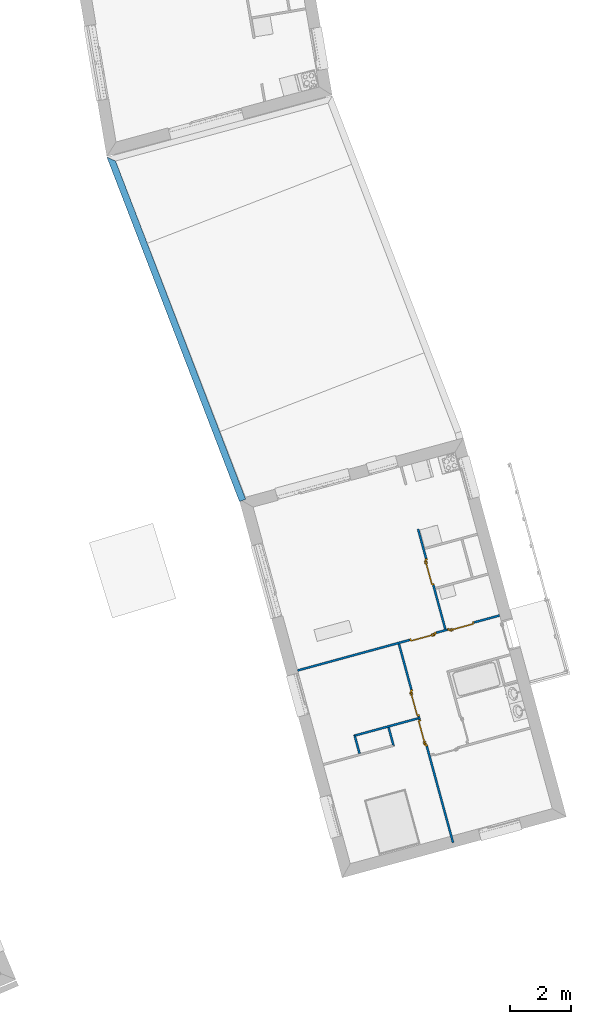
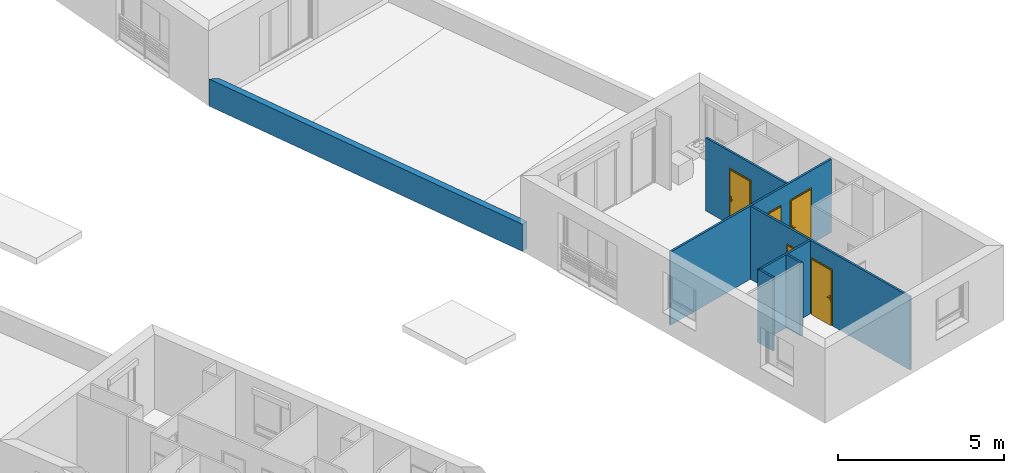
# One storey, part 63 of 121: 7 walls, 5 doors, 5 openings.
"""IFC2X3 building model written with IfcOpenShell, lengths in metres."""

from ifc_helpers import new_model, entity, si_unit, converted_unit, derived_unit, money_unit, direction, frame, origin_with_axes, origin_2d_with_axis, place, context, subcontext, project, spatial, polyline, rectangle, outline, extrude, faceted_brep, source, transform, mapped, material, layer, layer_set, layer_usage, type_object, element, fill, save


model = new_model("IFC2X3")

# Units and contexts
model_context = context("Model", 3, precision=1e-05, world=origin_with_axes(), true_north=direction((0.0, 1.0)))
body_context = subcontext(model_context, "Body", "Model", "MODEL_VIEW")
ifc_project = project(units=[si_unit("LENGTHUNIT", "METRE"), si_unit("AREAUNIT", "SQUARE_METRE"), si_unit("VOLUMEUNIT", "CUBIC_METRE"), converted_unit("PLANEANGLEUNIT", "DEGREE", entity("IfcPlaneAngleMeasure", 0.0174532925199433), si_unit("PLANEANGLEUNIT", "RADIAN"), dimensions=[0, 0, 0, 0, 0, 0, 0]), money_unit("CHF"), converted_unit("TIMEUNIT", "Year", entity("IfcTimeMeasure", 31557600.0), si_unit("TIMEUNIT", "SECOND"), dimensions=[0, 0, 1, 0, 0, 0, 0]), si_unit("MASSUNIT", "GRAM", prefix="KILO"), si_unit("THERMODYNAMICTEMPERATUREUNIT", "DEGREE_CELSIUS"), si_unit("LUMINOUSINTENSITYUNIT", "LUMEN"), si_unit("ENERGYUNIT", "JOULE", prefix="MEGA"), derived_unit("THERMALCONDUCTANCEUNIT", [(si_unit("POWERUNIT", "WATT"), 1), (si_unit("LENGTHUNIT", "METRE"), -1), (si_unit("THERMODYNAMICTEMPERATUREUNIT", "KELVIN"), -1)]), derived_unit("SPECIFICHEATCAPACITYUNIT", [(si_unit("ENERGYUNIT", "JOULE"), 1), (si_unit("MASSUNIT", "GRAM", prefix="KILO"), -1), (si_unit("THERMODYNAMICTEMPERATUREUNIT", "KELVIN"), -1)]), derived_unit("MASSDENSITYUNIT", [(si_unit("MASSUNIT", "GRAM", prefix="KILO"), 1), (si_unit("VOLUMEUNIT", "CUBIC_METRE"), -1)])], contexts=[model_context])

# Site, building, storey
site_placement = place(None, origin_with_axes())
site = spatial("IfcSite", under=ifc_project, at=site_placement, Name="Site", CompositionType="ELEMENT")
building_placement = place(site_placement, origin_with_axes())
building = spatial("IfcBuilding", under=site, at=building_placement, Name="Bâtiment", CompositionType="ELEMENT")
storey_placement = place(building_placement, frame((0.0, 0.0, 2.75), z_axis=(0.0, 0.0, 1.0), x_axis=(1.0, 0.0, 0.0)))
storey = spatial("IfcBuildingStorey", under=building, at=storey_placement, Name="Etage 1", CompositionType="ELEMENT", Elevation=2.75)

# Wall, openings, doors
ifc_material_1 = material(Name="Hachure solide 268963992")
ifc_layer_1 = layer(ifc_material_1, 0.07, ventilated="UNKNOWN")
ifc_layer_set_1 = layer_set([ifc_layer_1], Name="Cloison 70 0826278243")
ifc_layer_usage_1 = layer_usage(ifc_layer_set_1, "AXIS2", "POSITIVE", 0.0)
wall_type_1 = type_object("IfcWallType", Name="Cloison 70 0826278243 70", PredefinedType="NOTDEFINED")
wall_1_placement = place(storey_placement, frame((9593.433496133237, -1058.258213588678, 57.7), z_axis=(0.0, 0.0, 1.0), x_axis=(-0.262734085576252, 0.9648682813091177, 0.0)))
wall_1 = element("IfcWallStandardCase", 1, at=wall_1_placement, inside=storey, type_object=wall_type_1, material=ifc_layer_usage_1, Name="Mur-149", context=body_context, shape_type="SweptSolid", body=[
    extrude(outline(polyline([(0.0, 0.0), (6.793539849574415, 0.0), (6.793539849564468, 0.07000000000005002), (0.0, 0.06999999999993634), (0.0, 0.0)])), origin_with_axes(), (0.0, 0.0, 1.0), 2.7),
])
opening_1_placement = place(wall_1_placement, frame((3.753835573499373, 0.0, 0.0), z_axis=(0.0, 0.0, 1.0), x_axis=(1.0, 0.0, 0.0)))
opening_1 = element("IfcOpeningElement", 2, at=opening_1_placement, cuts=wall_1, Name="Por-301", context=body_context, shape_type="SweptSolid", body=[
    extrude(rectangle(XDim=0.9099999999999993, YDim=2.079999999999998, at=origin_2d_with_axis()), frame((0.0, -0.07000000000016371, 1.039999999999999), z_axis=(0.0, 1.0, 0.0), x_axis=(1.0, 0.0, 0.0)), (0.0, 0.0, 1.0), 0.14),
])
opening_2_placement = place(wall_1_placement, frame((4.775037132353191, 0.0, 0.0), z_axis=(0.0, 0.0, 1.0), x_axis=(1.0, 0.0, 0.0)))
opening_2 = element("IfcOpeningElement", 3, at=opening_2_placement, cuts=wall_1, Name="Por-302", context=body_context, shape_type="SweptSolid", body=[
    extrude(rectangle(XDim=0.9099999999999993, YDim=2.079999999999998, at=origin_2d_with_axis()), frame((0.0, -0.06999999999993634, 1.039999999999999), z_axis=(0.0, -1.0, 0.0), x_axis=(-1.0, 0.0, 0.0)), (0.0, 0.0, -1.0), 0.14),
])
door_style = type_object("IfcDoorStyle", Name="Porte_1v", ConstructionType="NOTDEFINED", OperationType="NOTDEFINED", ParameterTakesPrecedence=False, Sizeable=False)
shared_shape_1 = source(origin_with_axes(), body_context, "Body", "Brep", [
    faceted_brep([(0.455, 0.0, 0.0), (0.415, 0.0, 0.0), (0.415, 0.0, 2.04), (-0.415, 0.0, 2.04), (-0.415, 0.0, 0.0), (-0.455, 0.0, 0.0), (-0.455, 0.0, 2.08), (0.455, 0.0, 2.08), (0.455, -0.07, 0.0), (0.4, -0.07, 0.0), (0.4, -0.015, 0.0), (0.415, -0.015, 0.0), (0.415, -0.015, 2.04), (-0.415, -0.015, 2.04), (-0.415, -0.015, 0.0), (-0.4, -0.015, 0.0), (-0.4, -0.07, 0.0), (-0.455, -0.07, 0.0), (-0.455, -0.07, 2.08), (0.455, -0.07, 2.08), (-0.4, -0.07, 2.025), (0.4, -0.07, 2.025), (0.4, -0.015, 2.025), (-0.4, -0.015, 2.025)], [[[0, 1, 2, 3, 4, 5, 6, 7]], [[0, 8, 9, 10, 11, 1]], [[1, 11, 12, 2]], [[2, 12, 13, 3]], [[3, 13, 14, 4]], [[5, 4, 14, 15, 16, 17]], [[18, 6, 5, 17]], [[19, 7, 6, 18]], [[8, 0, 7, 19]], [[9, 8, 19, 18, 17, 16, 20, 21]], [[10, 9, 21, 22]], [[11, 10, 22, 23, 15, 14, 13, 12]], [[23, 20, 16, 15]], [[22, 21, 20, 23]]]),
    faceted_brep([(-0.35, -0.015, 0.9), (-0.39, -0.015, 0.9), (-0.39, -0.015, 1.1), (-0.35, -0.015, 1.1), (-0.35, -0.025, 0.9), (-0.39, -0.025, 0.9), (-0.39, -0.025, 1.1), (-0.35, -0.025, 1.1)], [[[0, 1, 2, 3]], [[1, 0, 4, 5]], [[2, 1, 5, 6]], [[3, 2, 6, 7]], [[0, 3, 7, 4]], [[5, 4, 7, 6]]]),
    faceted_brep([(-0.28, -0.025, 1.0), (-0.38, -0.025, 1.0), (-0.38, -0.025, 1.02), (-0.28, -0.025, 1.02), (-0.28, -0.045, 1.0), (-0.38, -0.045, 1.0), (-0.38, -0.045, 1.02), (-0.28, -0.045, 1.02)], [[[0, 1, 2, 3]], [[1, 0, 4, 5]], [[2, 1, 5, 6]], [[3, 2, 6, 7]], [[0, 3, 7, 4]], [[5, 4, 7, 6]]]),
    faceted_brep([(-0.35, 0.035, 0.9), (-0.39, 0.035, 0.9), (-0.39, 0.035, 1.1), (-0.35, 0.035, 1.1), (-0.35, 0.025, 0.9), (-0.39, 0.025, 0.9), (-0.39, 0.025, 1.1), (-0.35, 0.025, 1.1)], [[[0, 1, 2, 3]], [[1, 0, 4, 5]], [[2, 1, 5, 6]], [[3, 2, 6, 7]], [[0, 3, 7, 4]], [[5, 4, 7, 6]]]),
    faceted_brep([(-0.28, 0.05500000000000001, 1.0), (-0.38, 0.05500000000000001, 1.0), (-0.38, 0.05500000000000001, 1.02), (-0.28, 0.05500000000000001, 1.02), (-0.28, 0.035, 1.0), (-0.38, 0.035, 1.0), (-0.38, 0.035, 1.02), (-0.28, 0.035, 1.02)], [[[0, 1, 2, 3]], [[1, 0, 4, 5]], [[2, 1, 5, 6]], [[3, 2, 6, 7]], [[0, 3, 7, 4]], [[5, 4, 7, 6]]]),
    faceted_brep([(-0.415, 0.025, 0.0), (0.415, 0.025, 0.0), (0.415, -0.015, 0.0), (-0.415, -0.015, 0.0), (-0.415, 0.025, 2.04), (0.415, 0.025, 2.04), (0.415, -0.015, 2.04), (-0.415, -0.015, 2.04)], [[[0, 1, 2, 3]], [[0, 4, 5, 1]], [[1, 5, 6, 2]], [[3, 2, 6, 7]], [[4, 0, 3, 7]], [[5, 4, 7, 6]]]),
])
door_1_placement = place(opening_1_placement, frame((-0.4149999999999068, 0.0, 0.0), z_axis=(0.0, 0.0, 1.0), x_axis=(1.0, 0.0, 0.0)))
door_1 = element("IfcDoor", 4, at=door_1_placement, inside=storey, type_object=door_style, Name="Por-301", OverallHeight=2.04, OverallWidth=0.83, context=body_context, shape_type="MappedRepresentation", body=[
    mapped(shared_shape_1, transform((0.4149999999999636, 0.07000000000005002, 0.0))),
])
fill(opening_1, door_1)
shared_shape_2 = source(origin_with_axes(), body_context, "Body", "Brep", [
    faceted_brep([(-0.455, 0.0, 0.0), (-0.455, 0.0, 2.08), (0.455, 0.0, 2.08), (0.455, 0.0, 0.0), (0.415, 0.0, 0.0), (0.415, 0.0, 2.04), (-0.415, 0.0, 2.04), (-0.415, 0.0, 0.0), (-0.455, -0.07, 0.0), (-0.455, -0.07, 2.08), (0.455, -0.07, 2.08), (0.455, -0.07, 0.0), (0.4, -0.07, 0.0), (0.4, -0.015, 0.0), (0.415, -0.015, 0.0), (0.415, -0.015, 2.04), (-0.415, -0.015, 2.04), (-0.415, -0.015, 0.0), (-0.4, -0.015, 0.0), (-0.4, -0.07, 0.0), (-0.4, -0.07, 2.025), (0.4, -0.07, 2.025), (0.4, -0.015, 2.025), (-0.4, -0.015, 2.025)], [[[0, 1, 2, 3, 4, 5, 6, 7]], [[8, 9, 1, 0]], [[9, 10, 2, 1]], [[10, 11, 3, 2]], [[3, 11, 12, 13, 14, 4]], [[5, 4, 14, 15]], [[6, 5, 15, 16]], [[7, 6, 16, 17]], [[0, 7, 17, 18, 19, 8]], [[19, 20, 21, 12, 11, 10, 9, 8]], [[22, 13, 12, 21]], [[17, 16, 15, 14, 13, 22, 23, 18]], [[18, 23, 20, 19]], [[23, 22, 21, 20]]]),
    faceted_brep([(0.35, -0.015, 0.9), (0.35, -0.015, 1.1), (0.39, -0.015, 1.1), (0.39, -0.015, 0.9), (0.35, -0.025, 0.9), (0.35, -0.025, 1.1), (0.39, -0.025, 1.1), (0.39, -0.025, 0.9)], [[[0, 1, 2, 3]], [[0, 4, 5, 1]], [[1, 5, 6, 2]], [[2, 6, 7, 3]], [[3, 7, 4, 0]], [[7, 6, 5, 4]]]),
    faceted_brep([(0.28, -0.025, 1.0), (0.28, -0.025, 1.02), (0.38, -0.025, 1.02), (0.38, -0.025, 1.0), (0.28, -0.045, 1.0), (0.28, -0.045, 1.02), (0.38, -0.045, 1.02), (0.38, -0.045, 1.0)], [[[0, 1, 2, 3]], [[0, 4, 5, 1]], [[1, 5, 6, 2]], [[2, 6, 7, 3]], [[3, 7, 4, 0]], [[7, 6, 5, 4]]]),
    faceted_brep([(0.35, 0.035, 0.9), (0.35, 0.035, 1.1), (0.39, 0.035, 1.1), (0.39, 0.035, 0.9), (0.35, 0.025, 0.9), (0.35, 0.025, 1.1), (0.39, 0.025, 1.1), (0.39, 0.025, 0.9)], [[[0, 1, 2, 3]], [[0, 4, 5, 1]], [[1, 5, 6, 2]], [[2, 6, 7, 3]], [[3, 7, 4, 0]], [[7, 6, 5, 4]]]),
    faceted_brep([(0.28, 0.05500000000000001, 1.0), (0.28, 0.05500000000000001, 1.02), (0.38, 0.05500000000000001, 1.02), (0.38, 0.05500000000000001, 1.0), (0.28, 0.035, 1.0), (0.28, 0.035, 1.02), (0.38, 0.035, 1.02), (0.38, 0.035, 1.0)], [[[0, 1, 2, 3]], [[0, 4, 5, 1]], [[1, 5, 6, 2]], [[2, 6, 7, 3]], [[3, 7, 4, 0]], [[7, 6, 5, 4]]]),
    faceted_brep([(0.415, 0.025, 0.0), (0.415, -0.015, 0.0), (-0.415, -0.015, 0.0), (-0.415, 0.025, 0.0), (0.415, 0.025, 2.04), (0.415, -0.015, 2.04), (-0.415, -0.015, 2.04), (-0.415, 0.025, 2.04)], [[[0, 1, 2, 3]], [[4, 5, 1, 0]], [[1, 5, 6, 2]], [[3, 2, 6, 7]], [[0, 3, 7, 4]], [[7, 6, 5, 4]]]),
])
door_2_placement = place(opening_2_placement, frame((-0.415000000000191, 0.0, 0.0), z_axis=(0.0, 0.0, 1.0), x_axis=(1.0, 0.0, 0.0)))
door_2 = element("IfcDoor", 5, at=door_2_placement, inside=storey, type_object=door_style, Name="Por-302", OverallHeight=2.04, OverallWidth=0.83, context=body_context, shape_type="MappedRepresentation", body=[
    mapped(shared_shape_2, transform((0.4150000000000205, 0.06999999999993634, 0.0))),
])
fill(opening_2, door_2)

# Walls
ifc_layer_usage_2 = layer_usage(ifc_layer_set_1, "AXIS2", "NEGATIVE", 0.0)
wall_2_placement = place(storey_placement, frame((9591.409640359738, -1055.105032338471, 57.7), z_axis=(0.0, 0.0, 1.0), x_axis=(-0.2627340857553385, 0.9648682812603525, 0.0)))
element("IfcWallStandardCase", 6, at=wall_2_placement, inside=storey, type_object=wall_type_1, material=ifc_layer_usage_2, Name="Mur-149", context=body_context, shape_type="SweptSolid", body=[
    extrude(outline(polyline([(0.0, -0.07000000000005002), (0.6499928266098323, -0.07000000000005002), (0.6499928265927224, 0.0), (0.07000000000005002, 0.0), (0.0, -0.07000000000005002)])), origin_with_axes(), (0.0, 0.0, 1.0), 2.7),
])
ifc_layer_usage_3 = layer_usage(ifc_layer_set_1, "AXIS2", "NEGATIVE", 0.0)
wall_3_placement = place(storey_placement, frame((9590.299683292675, -1055.407274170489, 57.7), z_axis=(0.0, 0.0, 1.0), x_axis=(-0.2627340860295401, 0.9648682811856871, 0.0)))
element("IfcWallStandardCase", 7, at=wall_3_placement, inside=storey, type_object=wall_type_1, material=ifc_layer_usage_3, Name="Mur-149", context=body_context, shape_type="SweptSolid", body=[
    extrude(outline(polyline([(0.07000000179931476, -0.06999999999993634), (0.6499928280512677, -0.07000000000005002), (0.719992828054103, 0.0), (0.07000000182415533, 0.0), (0.07000000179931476, -0.06999999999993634)])), origin_with_axes(), (0.0, 0.0, 1.0), 2.7),
])
ifc_layer_usage_4 = layer_usage(ifc_layer_set_1, "AXIS2", "POSITIVE", 0.0)
wall_4_placement = place(storey_placement, frame((9592.305280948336, -1054.114940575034, 57.7), z_axis=(0.0, 0.0, 1.0), x_axis=(-0.9648682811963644, -0.2627340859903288, 0.0)))
element("IfcWallStandardCase", 8, at=wall_4_placement, inside=storey, type_object=wall_type_1, material=ifc_layer_usage_4, Name="Mur-149", context=body_context, shape_type="SweptSolid", body=[
    extrude(outline(polyline([(0.07000000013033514, 0.0), (2.2746776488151, 0.0), (2.204677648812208, 0.06999999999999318), (0.07000000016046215, 0.07000000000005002), (0.07000000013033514, 0.0)])), origin_with_axes(), (0.0, 0.0, 1.0), 2.7),
])

# Wall, openings, doors
ifc_layer_usage_5 = layer_usage(ifc_layer_set_1, "AXIS2", "POSITIVE", 0.0)
wall_5_placement = place(storey_placement, frame((9595.295522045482, -1050.637735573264, 57.7), z_axis=(0.0, 0.0, 1.0), x_axis=(-0.9648682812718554, -0.2627340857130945, 0.0)))
wall_5 = element("IfcWallStandardCase", 9, at=wall_5_placement, inside=storey, type_object=wall_type_1, material=ifc_layer_usage_5, Name="Mur-149", context=body_context, shape_type="SweptSolid", body=[
    extrude(outline(polyline([(0.3799999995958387, 0.0), (7.289914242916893, 0.0), (7.28991424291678, 0.06999999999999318), (0.3799999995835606, 0.06999999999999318), (0.3799999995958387, 0.0)])), origin_with_axes(), (0.0, 0.0, 1.0), 2.7),
])
opening_3_placement = place(wall_5_placement, frame((3.0024049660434, 0.0, 0.0), z_axis=(0.0, 0.0, 1.0), x_axis=(1.0, 0.0, 0.0)))
opening_3 = element("IfcOpeningElement", 10, at=opening_3_placement, cuts=wall_5, Name="Por-299", context=body_context, shape_type="SweptSolid", body=[
    extrude(rectangle(XDim=0.9099999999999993, YDim=2.079999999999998, at=origin_2d_with_axis()), frame((0.0, -0.06999999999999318, 1.039999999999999), z_axis=(0.0, 1.0, 0.0), x_axis=(1.0, 0.0, 0.0)), (0.0, 0.0, 1.0), 0.14),
])
opening_4_placement = place(wall_5_placement, frame((1.708901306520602, 0.0, 0.0), z_axis=(0.0, 0.0, 1.0), x_axis=(1.0, 0.0, 0.0)))
opening_4 = element("IfcOpeningElement", 11, at=opening_4_placement, cuts=wall_5, Name="Por-299", context=body_context, shape_type="SweptSolid", body=[
    extrude(rectangle(XDim=0.9099999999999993, YDim=2.079999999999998, at=origin_2d_with_axis()), frame((0.0, -0.06999999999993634, 1.039999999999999), z_axis=(0.0, -1.0, 0.0), x_axis=(-1.0, 0.0, 0.0)), (0.0, 0.0, -1.0), 0.14),
])
door_3_placement = place(opening_3_placement, frame((-0.4149999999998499, 0.0, 0.0), z_axis=(0.0, 0.0, 1.0), x_axis=(1.0, 0.0, 0.0)))
door_3 = element("IfcDoor", 12, at=door_3_placement, inside=storey, type_object=door_style, Name="Por-299", OverallHeight=2.04, OverallWidth=0.83, context=body_context, shape_type="MappedRepresentation", body=[
    mapped(shared_shape_1, transform((0.4149999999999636, 0.07000000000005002, 0.0))),
])
fill(opening_3, door_3)
door_4_placement = place(opening_4_placement, frame((-0.4149999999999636, 0.0, 0.0), z_axis=(0.0, 0.0, 1.0), x_axis=(1.0, 0.0, 0.0)))
door_4 = element("IfcDoor", 13, at=door_4_placement, inside=storey, type_object=door_style, Name="Por-299", OverallHeight=2.04, OverallWidth=0.83, context=body_context, shape_type="MappedRepresentation", body=[
    mapped(shared_shape_2, transform((0.4149999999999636, 0.07000000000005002, 0.0))),
])
fill(opening_4, door_4)

# Wall, opening, door
ifc_layer_usage_6 = layer_usage(ifc_layer_set_1, "AXIS2", "POSITIVE", 0.0)
wall_6_placement = place(storey_placement, frame((9593.17950567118, -1051.213927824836, 57.7), z_axis=(0.0, 0.0, 1.0), x_axis=(-0.2627340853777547, 0.9648682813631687, 0.0)))
wall_6 = element("IfcWallStandardCase", 14, at=wall_6_placement, inside=storey, type_object=wall_type_1, material=ifc_layer_usage_6, Name="Mur-149", context=body_context, shape_type="SweptSolid", body=[
    extrude(outline(polyline([(0.0, 0.0), (3.422471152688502, 0.0), (3.422471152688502, 0.06999999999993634), (0.0, 0.06999999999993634), (0.0, 0.0)])), origin_with_axes(), (0.0, 0.0, 1.0), 2.7),
])
opening_5_placement = place(wall_6_placement, frame((1.958816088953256, 0.0, 0.0), z_axis=(0.0, 0.0, 1.0), x_axis=(1.0, 0.0, 0.0)))
opening_5 = element("IfcOpeningElement", 15, at=opening_5_placement, cuts=wall_6, Name="Por-299", context=body_context, shape_type="SweptSolid", body=[
    extrude(rectangle(XDim=0.9099999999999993, YDim=2.079999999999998, at=origin_2d_with_axis()), frame((0.0, -0.06999999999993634, 1.039999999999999), z_axis=(0.0, -1.0, 0.0), x_axis=(-1.0, 0.0, 0.0)), (0.0, 0.0, -1.0), 0.14),
])
door_5_placement = place(opening_5_placement, frame((-0.4150000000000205, 0.0, 0.0), z_axis=(0.0, 0.0, 1.0), x_axis=(1.0, 0.0, 0.0)))
door_5 = element("IfcDoor", 16, at=door_5_placement, inside=storey, type_object=door_style, Name="Por-299", OverallHeight=2.04, OverallWidth=0.83, context=body_context, shape_type="MappedRepresentation", body=[
    mapped(shared_shape_2, transform((0.4149999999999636, 0.06999999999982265, 0.0))),
])
fill(opening_5, door_5)

# Wall
ifc_material_2 = material(Name="Empty Fill 3000033799")
ifc_layer_2 = layer(ifc_material_2, 0.22, ventilated="UNKNOWN")
ifc_layer_set_2 = layer_set([ifc_layer_2], Name="acrotère 22")
ifc_layer_usage_7 = layer_usage(ifc_layer_set_2, "AXIS2", "POSITIVE", 0.0)
wall_type_2 = type_object("IfcWallType", Name="acrotère 22 220", PredefinedType="NOTDEFINED")
wall_7_placement = place(storey_placement, frame((9581.97653269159, -1035.644242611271, 57.7), z_axis=(0.0, 0.0, 1.0), x_axis=(0.3591526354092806, -0.933278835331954, 0.0)))
element("IfcWallStandardCase", 17, at=wall_7_placement, inside=storey, type_object=wall_type_2, material=ifc_layer_usage_7, Name="Mur-111", context=body_context, shape_type="SweptSolid", body=[
    extrude(outline(polyline([(0.0, 0.0), (12.18176326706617, 0.0), (12.18176326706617, 0.2199999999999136), (0.2234428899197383, 0.2199999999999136), (0.0, 0.0)])), origin_with_axes(), (0.0, 0.0, 1.0), 1.0),
])

save(model, "model.ifc")
